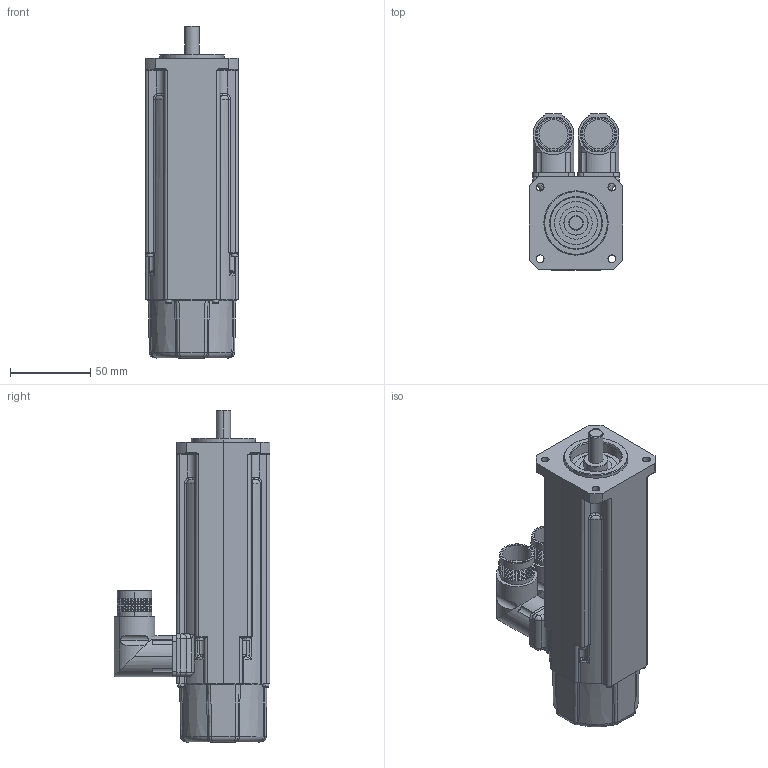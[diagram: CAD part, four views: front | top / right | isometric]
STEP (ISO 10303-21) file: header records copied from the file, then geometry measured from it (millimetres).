
FILE_DESCRIPTION (( 'STEP AP214' ), '1' );
FILE_NAME ('MR7724-Ux-Nxx-G01-A0D-MS-P0.stp', '2009-04-08T13:46:00', ( 'sysAdmin' ), ( 'SolidWorks' ), 'SwSTEP 2.0', 'SolidWorks 2009', '' );
FILE_SCHEMA (( 'AUTOMOTIVE_DESIGN' ));
Length unit declared in the file: millimetre
Products named in the file (1): MR7724-Ux-Nxx-G01-A0D-MS-P0
Bounding box: 58 x 97 x 206.5 mm (x, y, z)
Volume: 575175.7 mm3; surface area: 59555.5 mm2
Topology: 1 solids, 1 shells, 617 faces, 1546 edges, 928 vertices
Faces by surface type: cylinder 189, bspline 146, cone 124, plane 101, torus 57
Entity records: 25589 total; most frequent: CARTESIAN_POINT 9658, ORIENTED_EDGE 3032, DIRECTION 2653, EDGE_CURVE 1516, AXIS2_PLACEMENT_3D 1123, VERTEX_POINT 928, EDGE_LOOP 652, CIRCLE 651
